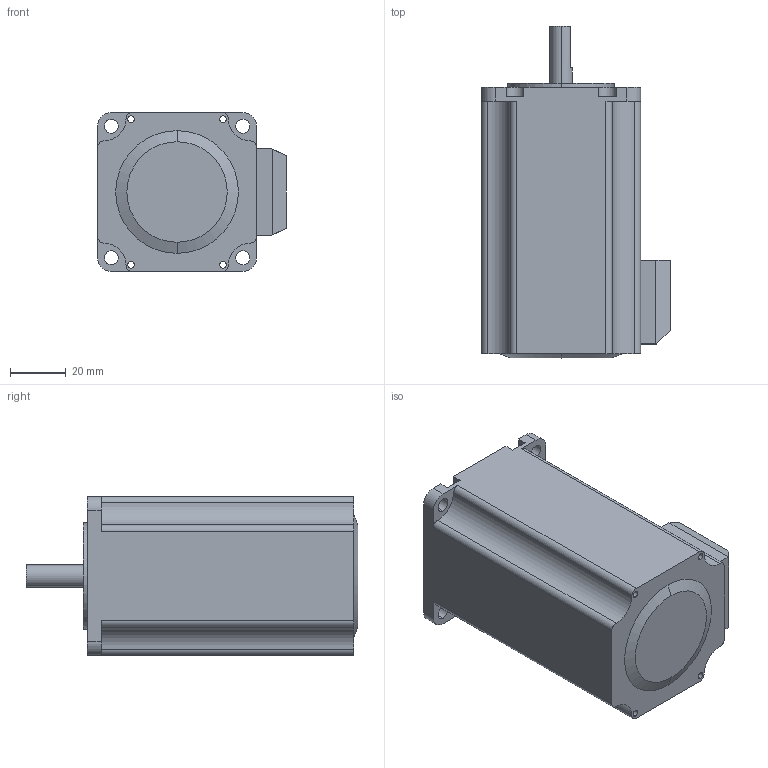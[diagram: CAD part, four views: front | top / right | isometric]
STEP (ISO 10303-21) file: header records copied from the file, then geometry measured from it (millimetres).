
FILE_DESCRIPTION (( 'STEP AP214' ), '1' );
FILE_NAME ('57A2ED（57HSM76D-D0822-001）.STEP', '2020-06-05T02:38:34', ( 'wimxt.com' ), ( 'wimxt.com' ), 'SwSTEP 2.0', 'SolidWorks 2014', '' );
FILE_SCHEMA (( 'AUTOMOTIVE_DESIGN' ));
Length unit declared in the file: millimetre
Products named in the file (1): 57A2ED（57HSM76D-D0822-001）
Bounding box: 67.7 x 119 x 57 mm (x, y, z)
Volume: 286994.9 mm3; surface area: 31397 mm2
Topology: 1 solids, 1 shells, 85 faces, 231 edges, 154 vertices
Faces by surface type: cylinder 46, plane 37, cone 2
Entity records: 2789 total; most frequent: DIRECTION 501, CARTESIAN_POINT 471, ORIENTED_EDGE 462, EDGE_CURVE 231, AXIS2_PLACEMENT_3D 184, VERTEX_POINT 154, VECTOR 133, LINE 133
